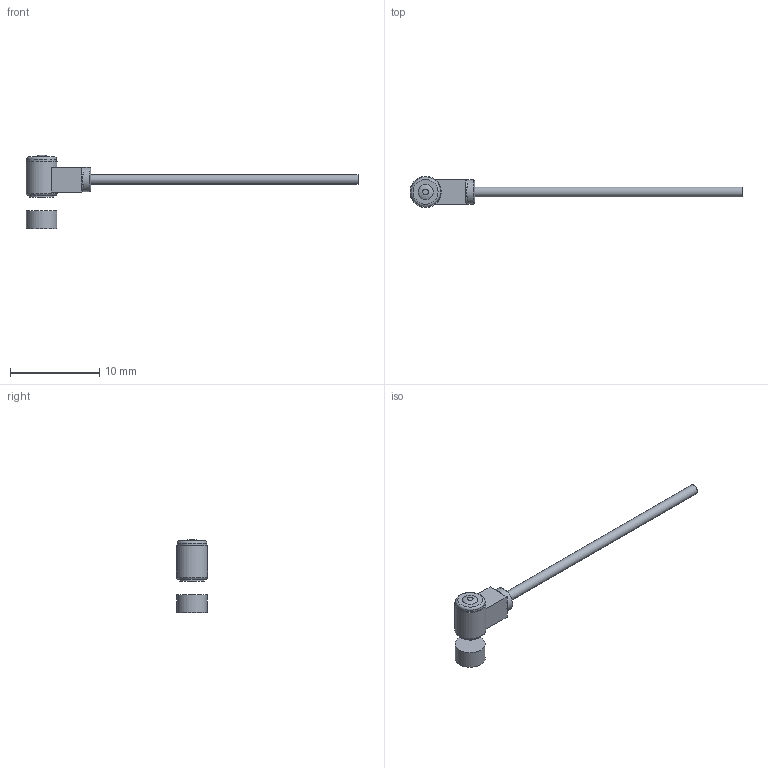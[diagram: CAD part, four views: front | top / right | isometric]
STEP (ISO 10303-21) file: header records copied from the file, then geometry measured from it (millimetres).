
FILE_DESCRIPTION( ( 'STEP AP214' ), '1' );
FILE_NAME( 'C:/Documents and Settings/amanda_wi/Desktop/9210 and thrust.stp', '2011-10-31T19:23:25', ( ' ' ), ( ' ' ), 'XStep 1.0', 'VISI-Series', ' ' );
FILE_SCHEMA( ( 'automotive_design' ) );
Length unit declared in the file: millimetre
Products named in the file (2): 1; 2
Bounding box: 37.25 x 3.5 x 8.2 mm (x, y, z)
Volume: 117 mm3; surface area: 250.7 mm2
Topology: 2 solids, 2 shells, 37 faces, 78 edges, 46 vertices
Faces by surface type: plane 17, bspline 7, torus 7, cylinder 6
Full cylindrical faces by diameter (mm): 1.1 x1, 2.7 x1, 2.75 x1, 3.3 x1, 3.4 x1, 3.5 x1
Entity records: 1803 total; most frequent: CARTESIAN_POINT 780, DIRECTION 152, ORIENTED_EDGE 120, AXIS2_PLACEMENT_3D 66, EDGE_CURVE 60, EDGE_LOOP 52, FACE_OUTER_BOUND 47, VERTEX_POINT 42
